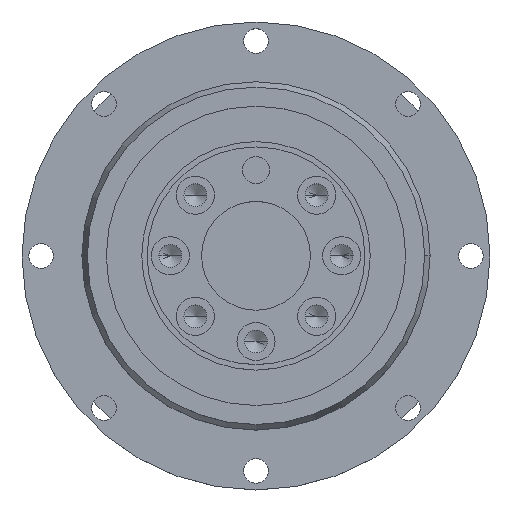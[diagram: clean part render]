
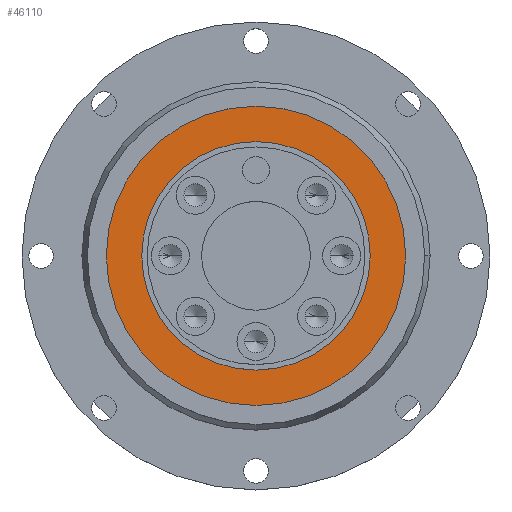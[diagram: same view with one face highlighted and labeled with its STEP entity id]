
A CAD part, top view. The second image highlights one B-rep face of the part: STEP entity #46110.
In plain terms, the highlighted planar face has unit normal (0, 0, 1).
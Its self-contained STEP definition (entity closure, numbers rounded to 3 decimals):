
#659 = ORIENTED_EDGE ( 'NONE', *, *, #6579, .T. ) ;
#3608 = CARTESIAN_POINT ( 'NONE',  ( -21., 0., -0.5 ) ) ;
#3958 = CARTESIAN_POINT ( 'NONE',  ( 27.5, 0., -0.5 ) ) ;
#4740 = DIRECTION ( 'NONE',  ( 1., 0., 0. ) ) ;
#4819 = DIRECTION ( 'NONE',  ( 0., 0., 1. ) ) ;
#4932 = CARTESIAN_POINT ( 'NONE',  ( 0., 0., -0.5 ) ) ;
#5028 = AXIS2_PLACEMENT_3D ( 'NONE', #16966, #21508, #51424 ) ;
#6579 = EDGE_CURVE ( 'NONE', #34847, #31850, #42160, .T. ) ;
#9301 = CIRCLE ( 'NONE', #34713, 21. ) ;
#9936 = VERTEX_POINT ( 'NONE', #10012 ) ;
#10012 = CARTESIAN_POINT ( 'NONE',  ( 21., 0., -0.5 ) ) ;
#12039 = PLANE ( 'NONE',  #5028 ) ;
#15850 = DIRECTION ( 'NONE',  ( 0., 0., 1. ) ) ;
#16966 = CARTESIAN_POINT ( 'NONE',  ( 0., 27.5, -0.5 ) ) ;
#19268 = CIRCLE ( 'NONE', #20332, 27.5 ) ;
#20126 = CARTESIAN_POINT ( 'NONE',  ( 0., 0., -0.5 ) ) ;
#20332 = AXIS2_PLACEMENT_3D ( 'NONE', #4932, #4819, #4740 ) ;
#20680 = EDGE_CURVE ( 'NONE', #31850, #34847, #19268, .T. ) ;
#21508 = DIRECTION ( 'NONE',  ( 0., 0., -1. ) ) ;
#24658 = DIRECTION ( 'NONE',  ( 1., 0., 0. ) ) ;
#24662 = DIRECTION ( 'NONE',  ( -1., 0., 0. ) ) ;
#24667 = DIRECTION ( 'NONE',  ( 0., 0., 1. ) ) ;
#24710 = CARTESIAN_POINT ( 'NONE',  ( 0., 0., -0.5 ) ) ;
#25392 = FACE_BOUND ( 'NONE', #36729, .T. ) ;
#25924 = FACE_OUTER_BOUND ( 'NONE', #33055, .T. ) ;
#29815 = CARTESIAN_POINT ( 'NONE',  ( -27.5, 0., -0.5 ) ) ;
#31850 = VERTEX_POINT ( 'NONE', #3958 ) ;
#33055 = EDGE_LOOP ( 'NONE', ( #50670, #659 ) ) ;
#34713 = AXIS2_PLACEMENT_3D ( 'NONE', #20126, #50223, #24662 ) ;
#34847 = VERTEX_POINT ( 'NONE', #29815 ) ;
#36729 = EDGE_LOOP ( 'NONE', ( #50076, #40665 ) ) ;
#40665 = ORIENTED_EDGE ( 'NONE', *, *, #43321, .F. ) ;
#42029 = CARTESIAN_POINT ( 'NONE',  ( 0., 0., -0.5 ) ) ;
#42160 = CIRCLE ( 'NONE', #46317, 27.5 ) ;
#42241 = CIRCLE ( 'NONE', #50065, 21. ) ;
#43321 = EDGE_CURVE ( 'NONE', #9936, #52135, #42241, .T. ) ;
#46110 = ADVANCED_FACE ( 'NONE', ( #25392, #25924 ), #12039, .F. ) ;
#46203 = DIRECTION ( 'NONE',  ( -1., 0., 0. ) ) ;
#46317 = AXIS2_PLACEMENT_3D ( 'NONE', #24710, #24667, #24658 ) ;
#50065 = AXIS2_PLACEMENT_3D ( 'NONE', #42029, #15850, #46203 ) ;
#50076 = ORIENTED_EDGE ( 'NONE', *, *, #52859, .F. ) ;
#50223 = DIRECTION ( 'NONE',  ( 0., 0., 1. ) ) ;
#50670 = ORIENTED_EDGE ( 'NONE', *, *, #20680, .T. ) ;
#51424 = DIRECTION ( 'NONE',  ( -1., 0., 0. ) ) ;
#52135 = VERTEX_POINT ( 'NONE', #3608 ) ;
#52859 = EDGE_CURVE ( 'NONE', #52135, #9936, #9301, .T. ) ;
